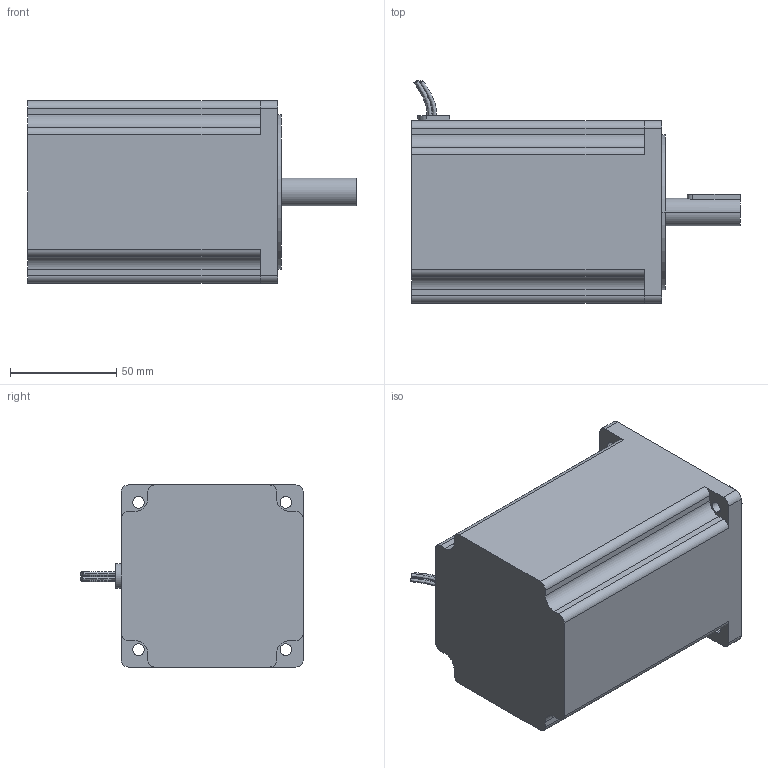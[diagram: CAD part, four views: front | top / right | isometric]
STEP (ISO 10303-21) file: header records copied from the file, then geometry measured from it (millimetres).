
FILE_DESCRIPTION (( 'STEP AP203' ), '1' );
FILE_NAME ('2S86Q-85B8.STEP', '2016-09-06T09:33:04', ( 'IT毞諾' ), ( 'iTianKong.com' ), 'SwSTEP 2.0', 'SolidWorks 2008', '' );
FILE_SCHEMA (( 'CONFIG_CONTROL_DESIGN' ));
Length unit declared in the file: millimetre
Products named in the file (1): 2S86Q-85B8
Bounding box: 155 x 104.91 x 85.85 mm (x, y, z)
Surface area: 55681.2 mm2 (no closed solid volume)
Topology: 0 solids, 5 shells, 73 faces, 189 edges, 126 vertices
Faces by surface type: cylinder 33, plane 32, bspline 8
Entity records: 2883 total; most frequent: CARTESIAN_POINT 979, DIRECTION 392, ORIENTED_EDGE 370, EDGE_CURVE 189, AXIS2_PLACEMENT_3D 147, VERTEX_POINT 126, VECTOR 98, LINE 98
